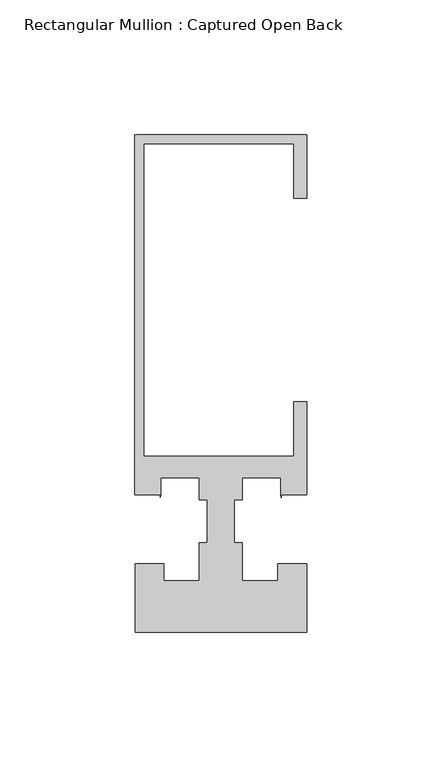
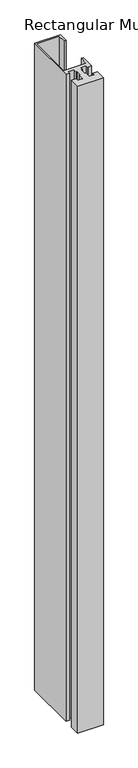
"""IFC4 building model written with IfcOpenShell, lengths in millimetres: member geometry, Rectangular Mullion : Captured Open Back."""

from ifc_helpers import new_model, si_unit, frame, origin, place, context, project, spatial, polyline, outline, extrude, source, transform, mapped, element, save


def rectangular_mullion_captured_open_back_b7547889(model_context):
    return source(origin(), model_context, "Body", "SweptSolid", [
        extrude(outline(polyline([(0.0, 114.3), (0.0, 90.8721193), (-4.7830665, 90.8721193), (-4.7830665, 111.1250145), (-60.3449493, 111.1250145), (-60.3449493, -4.7625735), (-4.7830665, -4.7625735), (-4.7830665, 15.5833982), (0.0, 15.5833982), (0.0, -18.933673), (-9.3791839, -18.933673), (-9.3791839, -20.0839351), (-9.5454538, -18.933673), (-9.5454538, -12.7), (-23.7289004, -12.7), (-23.7289004, -20.8793999), (-26.7817813, -20.8793999), (-26.7817813, -36.6491027), (-23.833119, -36.6491027), (-23.833119, -50.8001709), (-10.6860183, -50.8001709), (-10.6860183, -44.4245655), (0.0, -44.4245655), (0.0, -69.8502416), (-63.5, -69.8502416), (-63.5, -44.4247364), (-52.7976545, -44.4247364), (-52.7976545, -50.8001709), (-39.7081202, -50.8001709), (-39.7081202, -36.6491027), (-36.7345137, -36.6491027), (-36.7345137, -20.8793999), (-39.7081204, -20.8793999), (-39.7081204, -12.7), (-53.9955753, -12.7), (-53.9955753, -18.948961), (-54.1818814, -19.8905485), (-54.1818814, -18.9488461), (-63.5205663, -18.9488461), (-63.5205663, 114.3), (0.0, 114.3)])), frame((0.0, 0.0, -1692.2396178), z_axis=(0.0, 0.0, 1.0), x_axis=(1.0, 0.0, 0.0)), (0.0, 0.0, 1.0), 1692.2396178),
    ])


if __name__ == "__main__":
    model = new_model("IFC4")
    model_context = context("Model", 3, world=origin())
    ifc_project = project(units=[si_unit("LENGTHUNIT", "METRE", prefix="MILLI")], contexts=[model_context])
    site = spatial("IfcSite", under=ifc_project)
    building = spatial("IfcBuilding", under=site)
    placement = place(None, origin())
    rectangular_mullion_captured_open_back_shape = rectangular_mullion_captured_open_back_b7547889(model_context)
    element("IfcMember", 1, ObjectType="Rectangular Mullion : Captured Open Back", at=placement, inside=building, context=model_context, shape_type="MappedRepresentation", body=[
        mapped(rectangular_mullion_captured_open_back_shape, transform((0.0, 0.0, 0.0), x_axis=(1.0, 0.0, 0.0), y_axis=(0.0, 1.0, 0.0), z_axis=(0.0, 0.0, 1.0))),
    ])
    save(model, "model.ifc")
